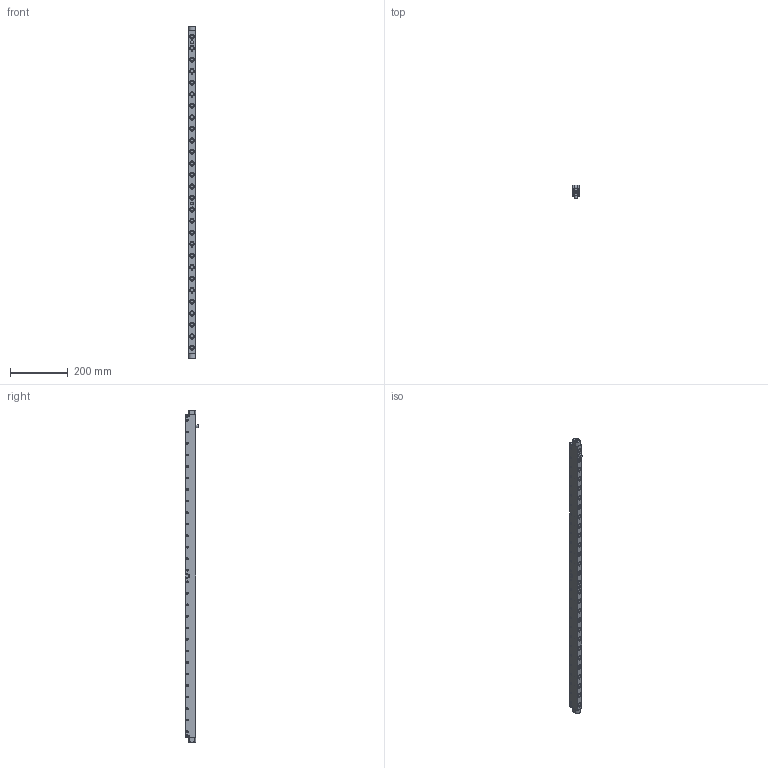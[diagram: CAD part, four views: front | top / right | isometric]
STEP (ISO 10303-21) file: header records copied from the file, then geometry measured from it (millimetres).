
FILE_DESCRIPTION(/* description */ (''),/* implementation_level */ '2;1');
FILE_NAME(/* name */ 'S:\EASCN Vault\Designs\Standard Part\DIE LIFTERS\EHR\EHR- 3D step\EHR22-C - 3D step complete serie\EHR22-28-C.stp',/* time_stamp */ '2019-09-16T10:33:03+08:00',/* author */ ('yue.yang'),/* organization */ (''),/* preprocessor_version */ 'ST-DEVELOPER v17',/* originating_system */ 'Autodesk Inventor 2019',/* authorisation */ '');
FILE_SCHEMA (('AUTOMOTIVE_DESIGN { 1 0 10303 214 3 1 1 }'));
Products named in the file (1): EHR22-28-C_Shrinkwrap_1
Bounding box: 21.8 x 48.05 x 1152 mm (x, y, z)
Volume: 699172.9 mm3; surface area: 270710.6 mm2
Topology: 29 solids, 29 shells, 1562 faces, 4524 edges, 3149 vertices
Faces by surface type: cylinder 554, plane 378, cone 321, torus 252, sphere 57
Full cylindrical faces by diameter (mm): 3 x10, 3.2 x8, 4 x16, 5 x98, 6 x38, 8.566 x2, 10 x6, 11 x28, 12.5 x56, 13.4 x28, 13.8 x28, 15.95 x56, 16 x56
Entity records: 58105 total; most frequent: CARTESIAN_POINT 12963, DIRECTION 10081, ORIENTED_EDGE 8974, EDGE_CURVE 4487, AXIS2_PLACEMENT_3D 4471, VERTEX_POINT 3149, CIRCLE 2908, EDGE_LOOP 1882
